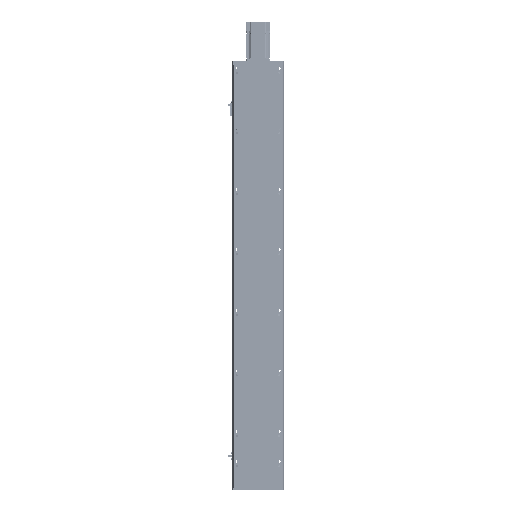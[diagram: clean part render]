
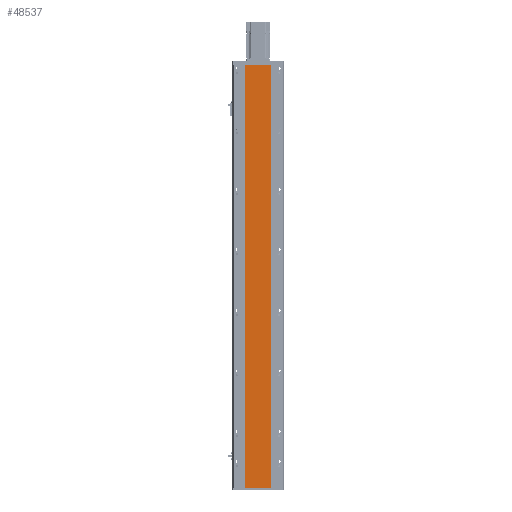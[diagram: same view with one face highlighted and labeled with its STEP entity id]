
A CAD part, front view. The second image highlights one B-rep face of the part: STEP entity #48537.
In plain terms, the highlighted planar face has unit normal (0, -1, 0).
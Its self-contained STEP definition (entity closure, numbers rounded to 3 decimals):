
#2714 = VECTOR ( 'NONE', #93141, 1000. ) ;
#8491 = CARTESIAN_POINT ( 'NONE',  ( -42., 0., -1395. ) ) ;
#11465 = VERTEX_POINT ( 'NONE', #78578 ) ;
#16280 = EDGE_CURVE ( 'NONE', #38619, #11465, #45529, .T. ) ;
#19318 = DIRECTION ( 'NONE',  ( 0., 0., 1. ) ) ;
#20016 = EDGE_CURVE ( 'NONE', #11465, #24068, #36419, .T. ) ;
#22109 = FACE_OUTER_BOUND ( 'NONE', #96822, .T. ) ;
#23539 = ORIENTED_EDGE ( 'NONE', *, *, #98518, .F. ) ;
#24068 = VERTEX_POINT ( 'NONE', #54572 ) ;
#27836 = CARTESIAN_POINT ( 'NONE',  ( -42., 0., 0. ) ) ;
#33245 = CARTESIAN_POINT ( 'NONE',  ( -42., 0., -1395. ) ) ;
#36009 = LINE ( 'NONE', #92472, #78890 ) ;
#36346 = PLANE ( 'NONE',  #79162 ) ;
#36419 = LINE ( 'NONE', #36485, #81995 ) ;
#36485 = CARTESIAN_POINT ( 'NONE',  ( 42., 0., -1395. ) ) ;
#38619 = VERTEX_POINT ( 'NONE', #8491 ) ;
#45529 = LINE ( 'NONE', #33245, #2714 ) ;
#48537 = ADVANCED_FACE ( 'NONE', ( #22109 ), #36346, .T. ) ;
#48576 = ORIENTED_EDGE ( 'NONE', *, *, #20016, .T. ) ;
#49283 = ORIENTED_EDGE ( 'NONE', *, *, #16280, .T. ) ;
#49526 = DIRECTION ( 'NONE',  ( 0., 0., 1. ) ) ;
#53600 = DIRECTION ( 'NONE',  ( 0., 0., -1. ) ) ;
#54572 = CARTESIAN_POINT ( 'NONE',  ( 42., 0., 0. ) ) ;
#59854 = VERTEX_POINT ( 'NONE', #27836 ) ;
#62379 = VECTOR ( 'NONE', #49526, 1000. ) ;
#76700 = EDGE_CURVE ( 'NONE', #38619, #59854, #87816, .T. ) ;
#78578 = CARTESIAN_POINT ( 'NONE',  ( 42., 0., -1395. ) ) ;
#78890 = VECTOR ( 'NONE', #101079, 1000. ) ;
#79162 = AXIS2_PLACEMENT_3D ( 'NONE', #96258, #104832, #53600 ) ;
#81995 = VECTOR ( 'NONE', #19318, 1000. ) ;
#87816 = LINE ( 'NONE', #92152, #62379 ) ;
#92152 = CARTESIAN_POINT ( 'NONE',  ( -42., 0., -1395. ) ) ;
#92472 = CARTESIAN_POINT ( 'NONE',  ( -42., 0., 0. ) ) ;
#93141 = DIRECTION ( 'NONE',  ( 1., 0., 0. ) ) ;
#93466 = ORIENTED_EDGE ( 'NONE', *, *, #76700, .F. ) ;
#96258 = CARTESIAN_POINT ( 'NONE',  ( -42., 0., -1395. ) ) ;
#96822 = EDGE_LOOP ( 'NONE', ( #23539, #93466, #49283, #48576 ) ) ;
#98518 = EDGE_CURVE ( 'NONE', #59854, #24068, #36009, .T. ) ;
#101079 = DIRECTION ( 'NONE',  ( 1., 0., 0. ) ) ;
#104832 = DIRECTION ( 'NONE',  ( 0., -1., 0. ) ) ;
